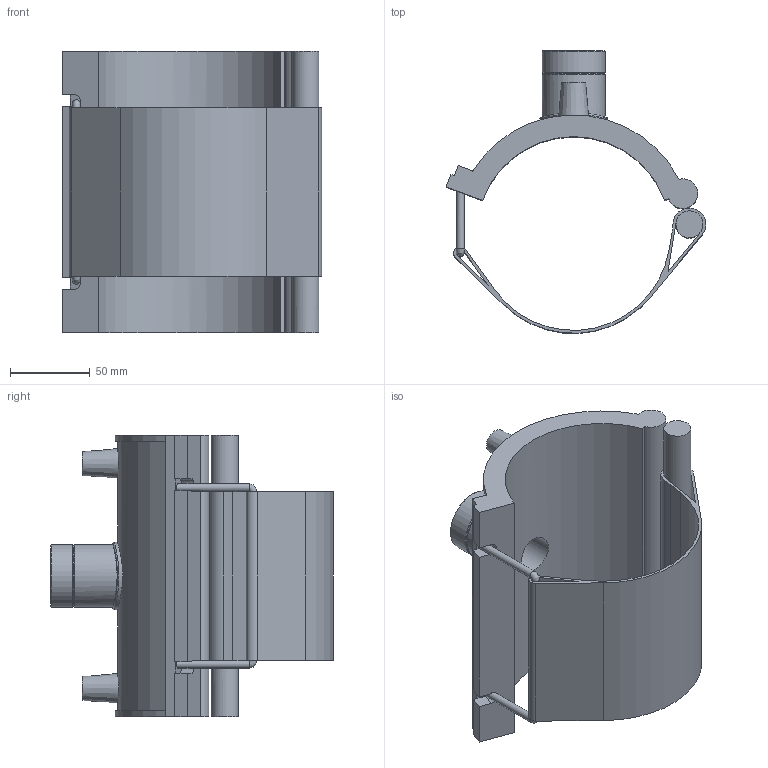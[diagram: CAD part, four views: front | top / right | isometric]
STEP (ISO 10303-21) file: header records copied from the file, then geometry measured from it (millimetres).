
FILE_DESCRIPTION(/* description */ ('PLASSON TRANSITION SADDLE 4''''DIPS x 1"NPT'),/* implementation_level */ '2;1');
FILE_NAME(/* name */ 'C:\Dropbox\KIMPROJECTS-Inventor 2019\99-16-3568-Processing Inch\ASTM ElectroFusion 2021\5938D\5938D00304060.ipt.stp',/* time_stamp */ '2021-08-30T09:51:57+03:00',/* author */ ('KIM'),/* organization */ (''),/* preprocessor_version */ 'ST-DEVELOPER v17.2',/* originating_system */ 'Autodesk Inventor 2019',/* authorisation */ '');
FILE_SCHEMA (('AUTOMOTIVE_DESIGN { 1 0 10303 214 3 1 1 }'));
Length unit declared in the file: inch
Products named in the file (1): 5938D00304060
Bounding box: 162.55 x 177.07 x 176.02 mm (x, y, z)
Volume: 546844.1 mm3; surface area: 159621.1 mm2
Topology: 1 solids, 1 shells, 82 faces, 214 edges, 140 vertices
Faces by surface type: plane 44, cylinder 30, cone 5, torus 2, bspline 1
Full cylindrical faces by diameter (mm): 4 x2, 4.852 x2, 10 x2, 16.889 x1, 24.233 x1, 30.291 x1, 38.378 x1, 39.378 x2, 42.407 x1
Entity records: 2953 total; most frequent: CARTESIAN_POINT 820, DIRECTION 442, ORIENTED_EDGE 430, EDGE_CURVE 215, AXIS2_PLACEMENT_3D 160, VERTEX_POINT 140, LINE 122, VECTOR 122
